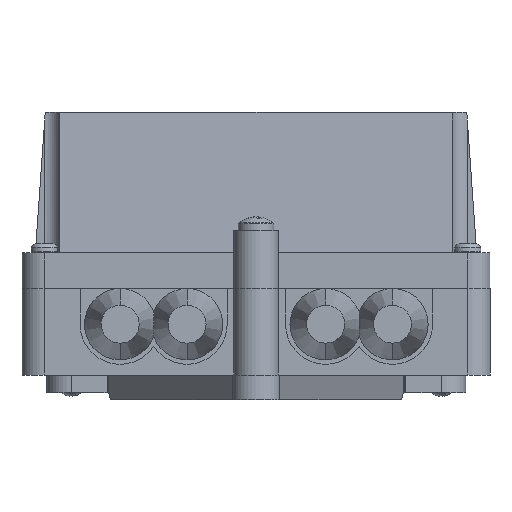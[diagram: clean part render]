
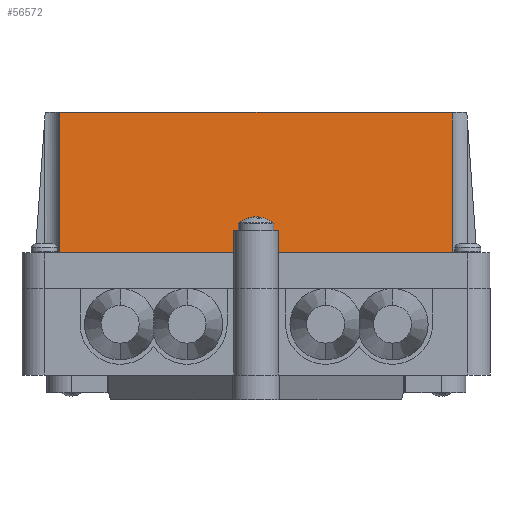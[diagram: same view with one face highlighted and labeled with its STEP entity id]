
A CAD part, front view. The second image highlights one B-rep face of the part: STEP entity #56572.
In plain terms, the highlighted planar face has unit normal (0, -0.998, 0.07).
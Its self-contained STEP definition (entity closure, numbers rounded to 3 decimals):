
#948 = CARTESIAN_POINT ( 'NONE',  ( -4.171, -23.964, 0. ) ) ;
#1077 = CARTESIAN_POINT ( 'NONE',  ( 5.829, -23.615, 5. ) ) ;
#1642 = CARTESIAN_POINT ( 'NONE',  ( -43.171, -21.964, 28.601 ) ) ;
#2576 = CARTESIAN_POINT ( 'NONE',  ( 44.835, -21.762, 31.5 ) ) ;
#2799 = VERTEX_POINT ( 'NONE', #1077 ) ;
#3011 = CARTESIAN_POINT ( 'NONE',  ( -4.171, -23.615, 5. ) ) ;
#3253 = EDGE_CURVE ( 'NONE', #2799, #48534, #47071, .T. ) ;
#7766 = EDGE_CURVE ( 'NONE', #42582, #34037, #46093, .T. ) ;
#8823 = EDGE_CURVE ( 'NONE', #51940, #43319, #28371, .T. ) ;
#9521 = VECTOR ( 'NONE', #36051, 1000. ) ;
#10355 = EDGE_CURVE ( 'NONE', #29996, #31481, #31104, .T. ) ;
#11477 = LINE ( 'NONE', #28112, #47015 ) ;
#11943 = VECTOR ( 'NONE', #30480, 1000. ) ;
#12194 = VERTEX_POINT ( 'NONE', #50269 ) ;
#12917 = VECTOR ( 'NONE', #54375, 1000. ) ;
#13018 = CARTESIAN_POINT ( 'NONE',  ( 0., -21.762, 31.5 ) ) ;
#13209 = DIRECTION ( 'NONE',  ( 1., 0., 0. ) ) ;
#15967 = PLANE ( 'NONE',  #24910 ) ;
#17408 =( BOUNDED_CURVE ( )  B_SPLINE_CURVE ( 3, ( #32993, #28361, #55428, #28750 ),
 .UNSPECIFIED., .F., .T. ) 
 B_SPLINE_CURVE_WITH_KNOTS ( ( 4, 4 ),
 ( 4.654, 4.712 ),
 .UNSPECIFIED. ) 
 CURVE ( )  GEOMETRIC_REPRESENTATION_ITEM ( )  RATIONAL_B_SPLINE_CURVE ( ( 1., 1., 1., 1. ) ) 
 REPRESENTATION_ITEM ( '' )  );
#17738 = EDGE_CURVE ( 'NONE', #12194, #34037, #21351, .T. ) ;
#20466 = DIRECTION ( 'NONE',  ( 0., -0.998, 0.07 ) ) ;
#20497 = EDGE_CURVE ( 'NONE', #2799, #12194, #32118, .T. ) ;
#20578 = CARTESIAN_POINT ( 'NONE',  ( 44.829, -23.964, 0. ) ) ;
#20635 = ORIENTED_EDGE ( 'NONE', *, *, #8823, .F. ) ;
#21351 = LINE ( 'NONE', #29638, #9521 ) ;
#21382 = CARTESIAN_POINT ( 'NONE',  ( 48.329, -23.615, 5. ) ) ;
#21813 = ORIENTED_EDGE ( 'NONE', *, *, #36694, .F. ) ;
#23609 = ORIENTED_EDGE ( 'NONE', *, *, #40735, .T. ) ;
#24163 = CARTESIAN_POINT ( 'NONE',  ( -43.171, -21.897, 29.568 ) ) ;
#24910 = AXIS2_PLACEMENT_3D ( 'NONE', #38142, #20466, #51651 ) ;
#28112 = CARTESIAN_POINT ( 'NONE',  ( -48.671, -23.964, 0. ) ) ;
#28361 = CARTESIAN_POINT ( 'NONE',  ( 44.831, -21.829, 30.535 ) ) ;
#28371 = LINE ( 'NONE', #40658, #50684 ) ;
#28750 = CARTESIAN_POINT ( 'NONE',  ( 44.829, -21.964, 28.601 ) ) ;
#29018 = CARTESIAN_POINT ( 'NONE',  ( -43.177, -21.762, 31.5 ) ) ;
#29638 = CARTESIAN_POINT ( 'NONE',  ( -48.671, -23.964, 0. ) ) ;
#29730 = VECTOR ( 'NONE', #13209, 1000. ) ;
#29996 = VERTEX_POINT ( 'NONE', #37526 ) ;
#30480 = DIRECTION ( 'NONE',  ( 0., -0.07, -0.998 ) ) ;
#30730 = EDGE_LOOP ( 'NONE', ( #42657, #20635, #23609, #21813, #31221, #57632, #37480, #45212, #50758, #37381 ) ) ;
#31104 = LINE ( 'NONE', #13018, #29730 ) ;
#31221 = ORIENTED_EDGE ( 'NONE', *, *, #3253, .F. ) ;
#31481 = VERTEX_POINT ( 'NONE', #2576 ) ;
#31843 = LINE ( 'NONE', #948, #43712 ) ;
#32098 =( BOUNDED_CURVE ( )  B_SPLINE_CURVE ( 3, ( #37753, #24163, #55719, #29018 ),
 .UNSPECIFIED., .F., .T. ) 
 B_SPLINE_CURVE_WITH_KNOTS ( ( 4, 4 ),
 ( 1.571, 1.629 ),
 .UNSPECIFIED. ) 
 CURVE ( )  GEOMETRIC_REPRESENTATION_ITEM ( )  RATIONAL_B_SPLINE_CURVE ( ( 1., 1., 1., 1. ) ) 
 REPRESENTATION_ITEM ( '' )  );
#32118 = LINE ( 'NONE', #38209, #55867 ) ;
#32993 = CARTESIAN_POINT ( 'NONE',  ( 44.835, -21.762, 31.5 ) ) ;
#34037 = VERTEX_POINT ( 'NONE', #35216 ) ;
#34289 = CARTESIAN_POINT ( 'NONE',  ( 44.829, -21.964, 28.601 ) ) ;
#34360 = EDGE_CURVE ( 'NONE', #31481, #42582, #17408, .T. ) ;
#34758 = DIRECTION ( 'NONE',  ( 0., 0.07, 0.998 ) ) ;
#35216 = CARTESIAN_POINT ( 'NONE',  ( 44.829, -23.964, 0. ) ) ;
#36051 = DIRECTION ( 'NONE',  ( 1., 0., 0. ) ) ;
#36694 = EDGE_CURVE ( 'NONE', #48534, #49435, #31843, .T. ) ;
#37381 = ORIENTED_EDGE ( 'NONE', *, *, #10355, .F. ) ;
#37480 = ORIENTED_EDGE ( 'NONE', *, *, #17738, .T. ) ;
#37526 = CARTESIAN_POINT ( 'NONE',  ( -43.177, -21.762, 31.5 ) ) ;
#37753 = CARTESIAN_POINT ( 'NONE',  ( -43.171, -21.964, 28.601 ) ) ;
#38142 = CARTESIAN_POINT ( 'NONE',  ( -48.671, -23.964, 0. ) ) ;
#38209 = CARTESIAN_POINT ( 'NONE',  ( 5.829, -24.555, -8.448 ) ) ;
#39386 = CARTESIAN_POINT ( 'NONE',  ( -43.171, -23.964, 0. ) ) ;
#40658 = CARTESIAN_POINT ( 'NONE',  ( -43.171, -23.964, 0. ) ) ;
#40735 = EDGE_CURVE ( 'NONE', #51940, #49435, #11477, .T. ) ;
#42582 = VERTEX_POINT ( 'NONE', #34289 ) ;
#42657 = ORIENTED_EDGE ( 'NONE', *, *, #48999, .F. ) ;
#43319 = VERTEX_POINT ( 'NONE', #1642 ) ;
#43712 = VECTOR ( 'NONE', #49603, 1000. ) ;
#45212 = ORIENTED_EDGE ( 'NONE', *, *, #7766, .F. ) ;
#46093 = LINE ( 'NONE', #20578, #11943 ) ;
#46831 = DIRECTION ( 'NONE',  ( 0., -0.07, -0.998 ) ) ;
#47015 = VECTOR ( 'NONE', #50316, 1000. ) ;
#47071 = LINE ( 'NONE', #21382, #12917 ) ;
#48534 = VERTEX_POINT ( 'NONE', #3011 ) ;
#48999 = EDGE_CURVE ( 'NONE', #43319, #29996, #32098, .T. ) ;
#49435 = VERTEX_POINT ( 'NONE', #54692 ) ;
#49603 = DIRECTION ( 'NONE',  ( 0., -0.07, -0.998 ) ) ;
#50269 = CARTESIAN_POINT ( 'NONE',  ( 5.829, -23.964, 0. ) ) ;
#50316 = DIRECTION ( 'NONE',  ( 1., 0., 0. ) ) ;
#50684 = VECTOR ( 'NONE', #34758, 1000. ) ;
#50758 = ORIENTED_EDGE ( 'NONE', *, *, #34360, .F. ) ;
#51651 = DIRECTION ( 'NONE',  ( 0., -0.07, -0.998 ) ) ;
#51869 = FACE_OUTER_BOUND ( 'NONE', #30730, .T. ) ;
#51940 = VERTEX_POINT ( 'NONE', #39386 ) ;
#54375 = DIRECTION ( 'NONE',  ( -1., 0., 0. ) ) ;
#54692 = CARTESIAN_POINT ( 'NONE',  ( -4.171, -23.964, 0. ) ) ;
#55428 = CARTESIAN_POINT ( 'NONE',  ( 44.829, -21.897, 29.568 ) ) ;
#55719 = CARTESIAN_POINT ( 'NONE',  ( -43.173, -21.829, 30.535 ) ) ;
#55867 = VECTOR ( 'NONE', #46831, 1000. ) ;
#56572 = ADVANCED_FACE ( 'NONE', ( #51869 ), #15967, .T. ) ;
#57632 = ORIENTED_EDGE ( 'NONE', *, *, #20497, .T. ) ;
